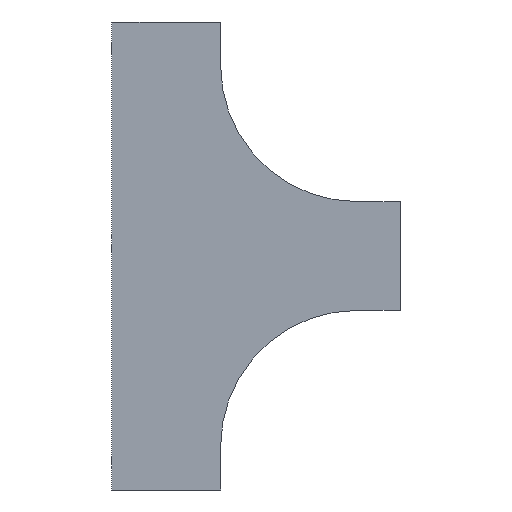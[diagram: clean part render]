
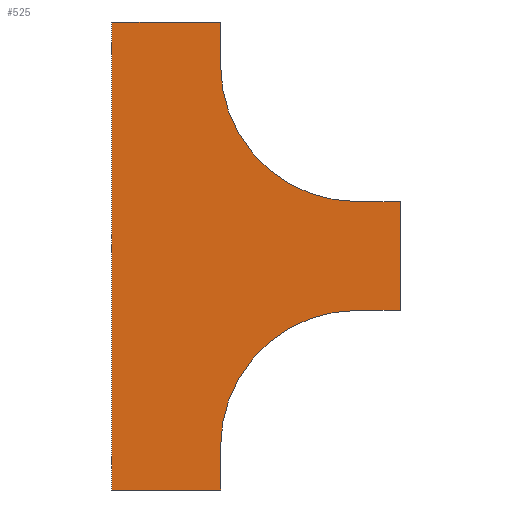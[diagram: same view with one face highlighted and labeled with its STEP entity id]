
A CAD part, front view. The second image highlights one B-rep face of the part: STEP entity #525.
In plain terms, the highlighted planar face has unit normal (0, -1, 0).
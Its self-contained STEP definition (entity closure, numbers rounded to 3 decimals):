
#8 = ORIENTED_EDGE ( 'NONE', *, *, #638, .F. ) ;
#42 = DIRECTION ( 'NONE',  ( 0., 0., 1. ) ) ;
#100 = CARTESIAN_POINT ( 'NONE',  ( -225., 0., 40. ) ) ;
#131 = AXIS2_PLACEMENT_3D ( 'NONE', #970, #1506, #42 ) ;
#189 = ORIENTED_EDGE ( 'NONE', *, *, #1020, .F. ) ;
#193 = VERTEX_POINT ( 'NONE', #817 ) ;
#208 = CARTESIAN_POINT ( 'NONE',  ( 0., 0., -125. ) ) ;
#218 = CARTESIAN_POINT ( 'NONE',  ( 0., 0., 0. ) ) ;
#249 = LINE ( 'NONE', #259, #1680 ) ;
#259 = CARTESIAN_POINT ( 'NONE',  ( -225., 0., -390. ) ) ;
#302 = ORIENTED_EDGE ( 'NONE', *, *, #1672, .F. ) ;
#317 = LINE ( 'NONE', #834, #969 ) ;
#367 = VERTEX_POINT ( 'NONE', #1074 ) ;
#511 = VERTEX_POINT ( 'NONE', #2225 ) ;
#525 = ADVANCED_FACE ( 'NONE', ( #1125 ), #906, .T. ) ;
#544 = DIRECTION ( 'NONE',  ( -1., 0., 0. ) ) ;
#583 = VECTOR ( 'NONE', #544, 1000. ) ;
#596 = CARTESIAN_POINT ( 'NONE',  ( 0., 0., 0. ) ) ;
#636 = DIRECTION ( 'NONE',  ( 0., 0., -1. ) ) ;
#638 = EDGE_CURVE ( 'NONE', #2318, #2007, #645, .T. ) ;
#645 = LINE ( 'NONE', #100, #1669 ) ;
#674 = CARTESIAN_POINT ( 'NONE',  ( -125., 0., 40. ) ) ;
#690 = ORIENTED_EDGE ( 'NONE', *, *, #890, .F. ) ;
#762 = CARTESIAN_POINT ( 'NONE',  ( 0., 0., -125. ) ) ;
#817 = CARTESIAN_POINT ( 'NONE',  ( -125., 0., -350. ) ) ;
#834 = CARTESIAN_POINT ( 'NONE',  ( -225., 0., -390. ) ) ;
#847 = CIRCLE ( 'NONE', #131, 125. ) ;
#853 = LINE ( 'NONE', #674, #1645 ) ;
#871 = CARTESIAN_POINT ( 'NONE',  ( 40., 0., -225. ) ) ;
#876 = AXIS2_PLACEMENT_3D ( 'NONE', #596, #2043, #1862 ) ;
#890 = EDGE_CURVE ( 'NONE', #1733, #1539, #1438, .T. ) ;
#906 = PLANE ( 'NONE',  #2046 ) ;
#969 = VECTOR ( 'NONE', #1401, 1000. ) ;
#970 = CARTESIAN_POINT ( 'NONE',  ( 0., 0., -350. ) ) ;
#977 = CARTESIAN_POINT ( 'NONE',  ( 0., 0., -225. ) ) ;
#1020 = EDGE_CURVE ( 'NONE', #1347, #1733, #2010, .T. ) ;
#1027 = ORIENTED_EDGE ( 'NONE', *, *, #2012, .F. ) ;
#1074 = CARTESIAN_POINT ( 'NONE',  ( -125., 0., -390. ) ) ;
#1079 = ORIENTED_EDGE ( 'NONE', *, *, #2296, .F. ) ;
#1125 = FACE_OUTER_BOUND ( 'NONE', #1372, .T. ) ;
#1126 = LINE ( 'NONE', #2036, #1200 ) ;
#1140 = EDGE_CURVE ( 'NONE', #511, #2318, #317, .T. ) ;
#1195 = VECTOR ( 'NONE', #636, 1000. ) ;
#1200 = VECTOR ( 'NONE', #1489, 1000. ) ;
#1277 = CARTESIAN_POINT ( 'NONE',  ( -225., 0., 40. ) ) ;
#1347 = VERTEX_POINT ( 'NONE', #1681 ) ;
#1349 = DIRECTION ( 'NONE',  ( -1., 0., 0. ) ) ;
#1372 = EDGE_LOOP ( 'NONE', ( #8, #1530, #302, #1079, #2232, #1027, #1789, #690, #189, #2265 ) ) ;
#1379 = EDGE_CURVE ( 'NONE', #1539, #1529, #1126, .T. ) ;
#1396 = DIRECTION ( 'NONE',  ( 0., 0., -1. ) ) ;
#1401 = DIRECTION ( 'NONE',  ( 0., 0., 1. ) ) ;
#1438 = LINE ( 'NONE', #208, #1516 ) ;
#1489 = DIRECTION ( 'NONE',  ( 0., 0., -1. ) ) ;
#1495 = VERTEX_POINT ( 'NONE', #977 ) ;
#1506 = DIRECTION ( 'NONE',  ( 0., -1., 0. ) ) ;
#1516 = VECTOR ( 'NONE', #2165, 1000. ) ;
#1529 = VERTEX_POINT ( 'NONE', #871 ) ;
#1530 = ORIENTED_EDGE ( 'NONE', *, *, #1140, .F. ) ;
#1539 = VERTEX_POINT ( 'NONE', #2274 ) ;
#1540 = CARTESIAN_POINT ( 'NONE',  ( -125., 0., -390. ) ) ;
#1632 = DIRECTION ( 'NONE',  ( 0., -1., 0. ) ) ;
#1645 = VECTOR ( 'NONE', #1396, 1000. ) ;
#1669 = VECTOR ( 'NONE', #1899, 1000. ) ;
#1672 = EDGE_CURVE ( 'NONE', #367, #511, #249, .T. ) ;
#1680 = VECTOR ( 'NONE', #1349, 1000. ) ;
#1681 = CARTESIAN_POINT ( 'NONE',  ( -125., 0., 0. ) ) ;
#1733 = VERTEX_POINT ( 'NONE', #762 ) ;
#1789 = ORIENTED_EDGE ( 'NONE', *, *, #1379, .F. ) ;
#1862 = DIRECTION ( 'NONE',  ( 0., 0., -1. ) ) ;
#1899 = DIRECTION ( 'NONE',  ( 1., 0., 0. ) ) ;
#2007 = VERTEX_POINT ( 'NONE', #2339 ) ;
#2010 = CIRCLE ( 'NONE', #876, 125. ) ;
#2012 = EDGE_CURVE ( 'NONE', #1529, #1495, #2173, .T. ) ;
#2036 = CARTESIAN_POINT ( 'NONE',  ( 40., 0., -125. ) ) ;
#2043 = DIRECTION ( 'NONE',  ( 0., -1., 0. ) ) ;
#2046 = AXIS2_PLACEMENT_3D ( 'NONE', #218, #1632, #2179 ) ;
#2053 = EDGE_CURVE ( 'NONE', #1495, #193, #847, .T. ) ;
#2118 = LINE ( 'NONE', #1540, #1195 ) ;
#2165 = DIRECTION ( 'NONE',  ( 1., 0., 0. ) ) ;
#2173 = LINE ( 'NONE', #2348, #583 ) ;
#2179 = DIRECTION ( 'NONE',  ( 0., 0., -1. ) ) ;
#2225 = CARTESIAN_POINT ( 'NONE',  ( -225., 0., -390. ) ) ;
#2232 = ORIENTED_EDGE ( 'NONE', *, *, #2053, .F. ) ;
#2265 = ORIENTED_EDGE ( 'NONE', *, *, #2270, .F. ) ;
#2270 = EDGE_CURVE ( 'NONE', #2007, #1347, #853, .T. ) ;
#2274 = CARTESIAN_POINT ( 'NONE',  ( 40., 0., -125. ) ) ;
#2296 = EDGE_CURVE ( 'NONE', #193, #367, #2118, .T. ) ;
#2318 = VERTEX_POINT ( 'NONE', #1277 ) ;
#2339 = CARTESIAN_POINT ( 'NONE',  ( -125., 0., 40. ) ) ;
#2348 = CARTESIAN_POINT ( 'NONE',  ( 0., 0., -225. ) ) ;
